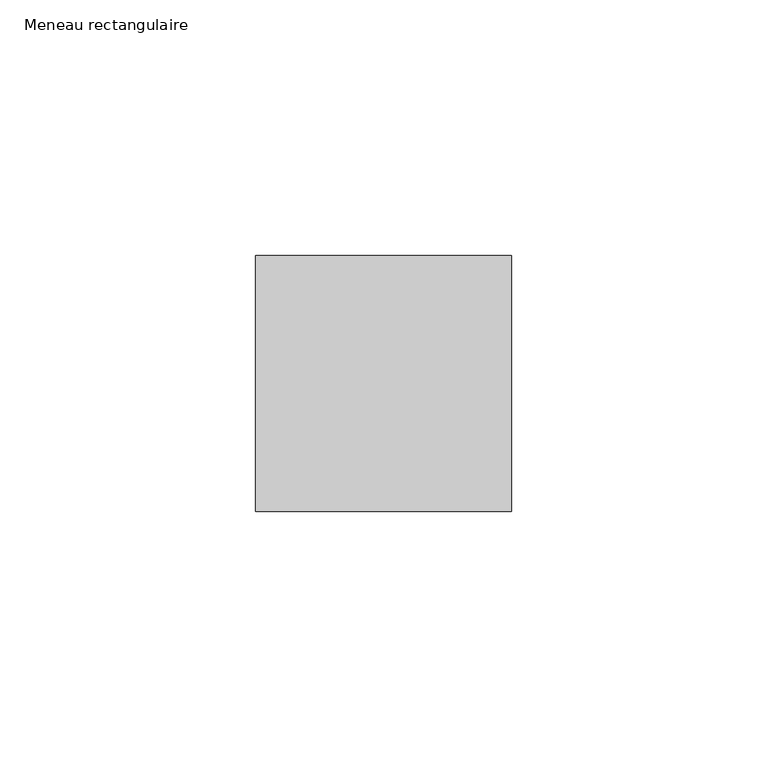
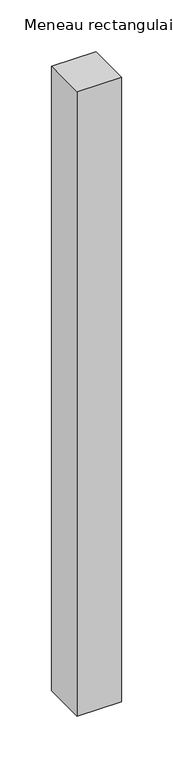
"""IFC4 building model written with IfcOpenShell, lengths in millimetres: member geometry, Meneau rectangulaire : 5x5cm aluminium laqué gris foncé."""

from ifc_helpers import new_model, si_unit, frame, origin, place, context, project, spatial, polyline, outline, extrude, source, transform, mapped, element, save


def meneau_rectangulaire_7dd63be9(model_context):
    return source(origin(), model_context, "Body", "SweptSolid", [
        extrude(outline(polyline([(25.0, 25.0), (25.0, -25.0), (-25.0, -25.0), (-25.0, 25.0), (25.0, 25.0)])), frame((0.0, 0.0, -740.0), z_axis=(0.0, 0.0, 1.0), x_axis=(1.0, 0.0, 0.0)), (0.0, 0.0, 1.0), 740.0),
    ])


if __name__ == "__main__":
    model = new_model("IFC4")
    model_context = context("Model", 3, world=origin())
    ifc_project = project(units=[si_unit("LENGTHUNIT", "METRE", prefix="MILLI")], contexts=[model_context])
    site = spatial("IfcSite", under=ifc_project)
    building = spatial("IfcBuilding", under=site)
    placement = place(None, origin())
    meneau_rectangulaire_shape = meneau_rectangulaire_7dd63be9(model_context)
    element("IfcMember", 1, ObjectType="Meneau rectangulaire : 5x5cm aluminium laqué gris foncé", at=placement, inside=building, context=model_context, shape_type="MappedRepresentation", body=[
        mapped(meneau_rectangulaire_shape, transform((0.0, 0.0, 0.0), x_axis=(1.0, 0.0, 0.0), y_axis=(0.0, 1.0, 0.0), z_axis=(0.0, 0.0, 1.0))),
    ])
    save(model, "model.ifc")
